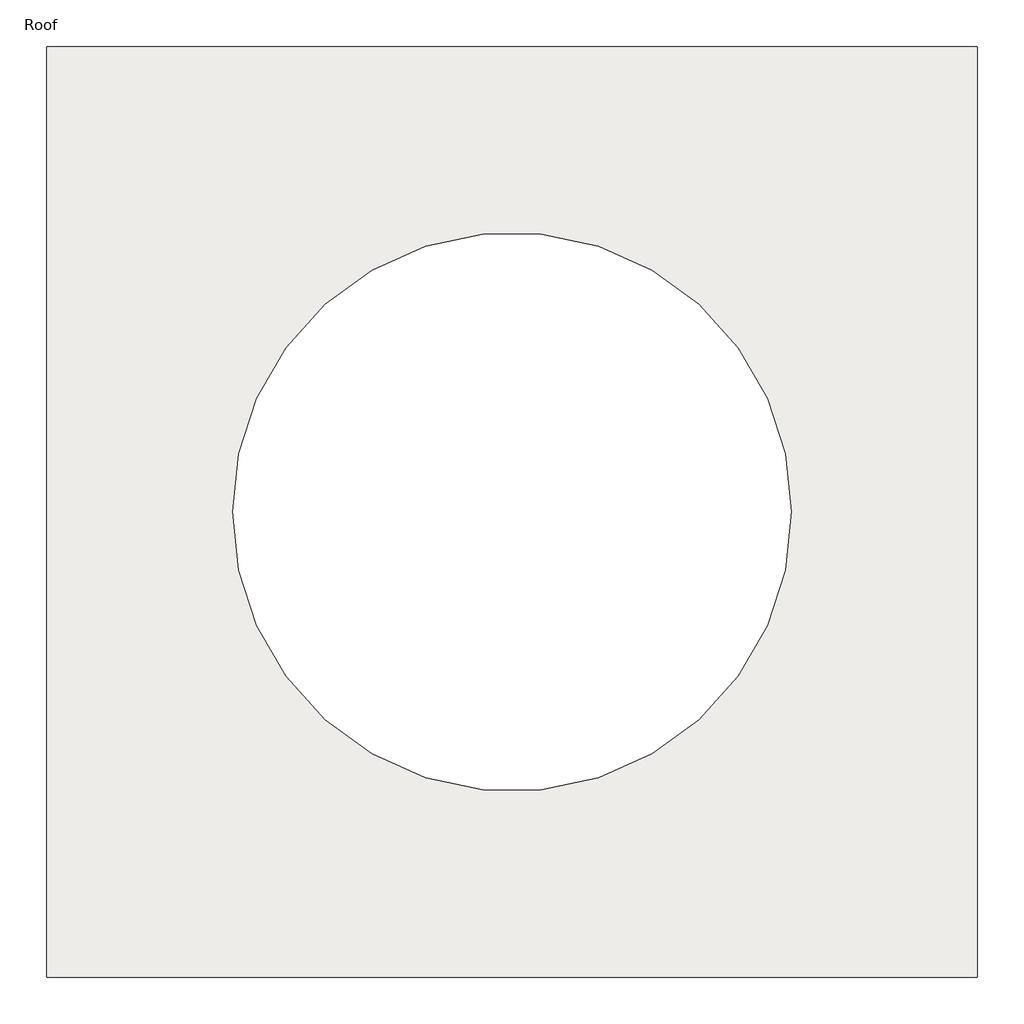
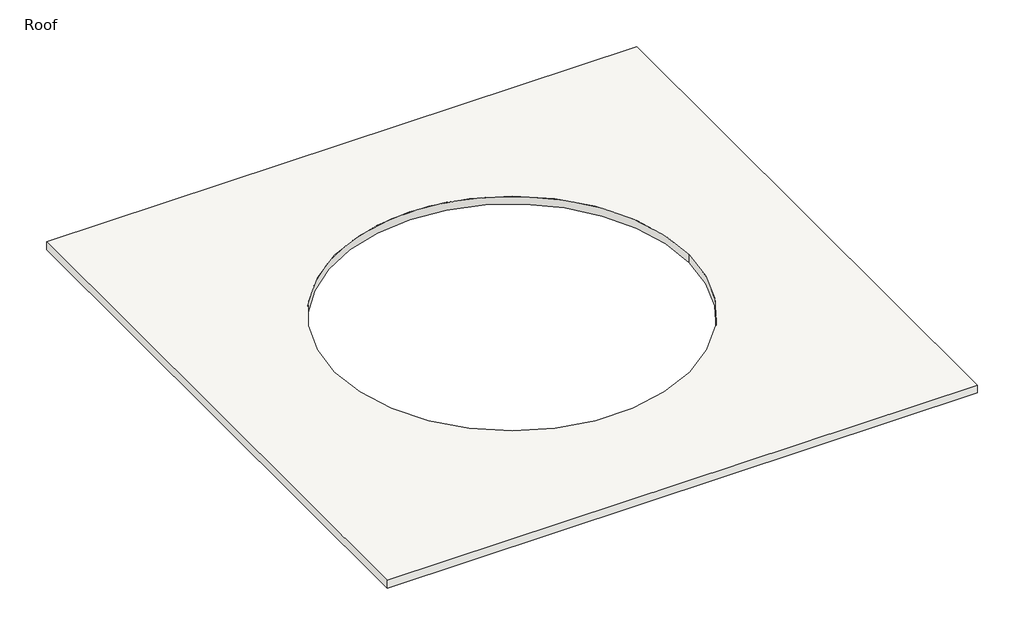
# One storey: 1 slab.
"""IFC4 building model written with IfcOpenShell, lengths in millimetres."""

from ifc_helpers import new_model, si_unit, point, frame, frame_2d, origin, place, context, project, spatial, polyline, circle_curve, trimmed, segment, composite_curve, outline, extrude, element, save

model = new_model("IFC4")

# Units and contexts
model_context = context("Model", 3, world=origin())
ifc_project = project(units=[si_unit("LENGTHUNIT", "METRE", prefix="MILLI")], contexts=[model_context])

# Site, building, storey
site = spatial("IfcSite", under=ifc_project)
building = spatial("IfcBuilding", under=site)
storey = spatial("IfcBuildingStorey", under=building, Name="Roof", Elevation=15240.0)

# Slab
placement = place(None, origin())
element("IfcSlab", 1, ObjectType="160mm Concrete With 50mm Metal Deck", at=placement, inside=storey, context=model_context, shape_type="SweptSolid", body=[
    extrude(outline(polyline([(8463.0350085, 7792.852658), (8463.0350085, -7447.147342), (-6776.9649915, -7447.147342), (-6776.9649915, 7792.852658), (8463.0350085, 7792.852658)]), holes=[composite_curve([segment(trimmed(circle_curve(frame_2d((843.0350085, 172.852658)), 4572.0), [point((5415.0350085, 172.852658))], [point((-3728.9649915, 172.852658))], True, "CARTESIAN"), True, "CONTINUOUS"), segment(trimmed(circle_curve(frame_2d((843.0350085, 172.852658)), 4572.0), [point((-3728.9649915, 172.852658))], [point((5415.0350085, 172.852658))], True, "CARTESIAN"), True, "CONTINUOUS")], self_intersect=False)]), frame((0.0, 0.0, 15030.0), z_axis=(0.0, 0.0, 1.0), x_axis=(1.0, 0.0, 0.0)), (0.0, 0.0, 1.0), 210.0),
])

save(model, "model.ifc")
